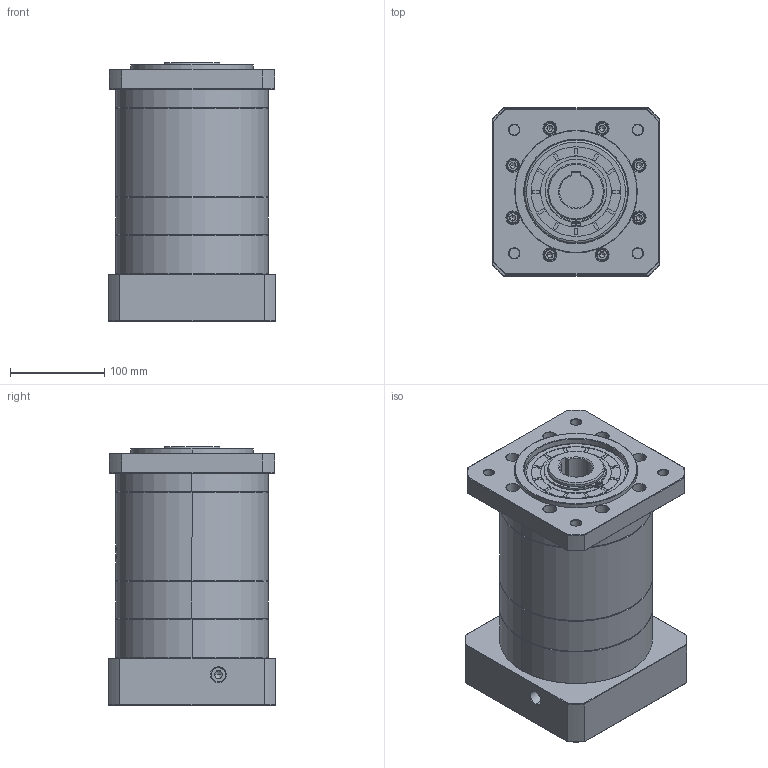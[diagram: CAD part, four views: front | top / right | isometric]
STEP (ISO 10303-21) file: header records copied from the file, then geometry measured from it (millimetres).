
FILE_DESCRIPTION (( 'STEP AP214' ), '1' );
FILE_NAME ('ZF160-K35-L3-35-114.3-200-M12.step', '2023-03-21T04:33:46', ( '' ), ( '' ), 'SwSTEP 2.0', 'SolidWorks 2016', '' );
FILE_SCHEMA (( 'AUTOMOTIVE_DESIGN' ));
Length unit declared in the file: millimetre
Products named in the file (1): ZF160-K35-L3-35-114.3-200-M12
Bounding box: 178 x 178 x 274.2 mm (x, y, z)
Volume: 5538040.3 mm3; surface area: 410226 mm2
Topology: 6 solids, 6 shells, 1735 faces, 4478 edges, 2854 vertices
Faces by surface type: plane 727, cylinder 416, cone 361, bspline 211, torus 20
Entity records: 93561 total; most frequent: CARTESIAN_POINT 34037, ORIENTED_EDGE 8900, DIRECTION 7800, EDGE_CURVE 4450, VERTEX_POINT 2854, AXIS2_PLACEMENT_3D 2697, VECTOR 2406, LINE 2406
